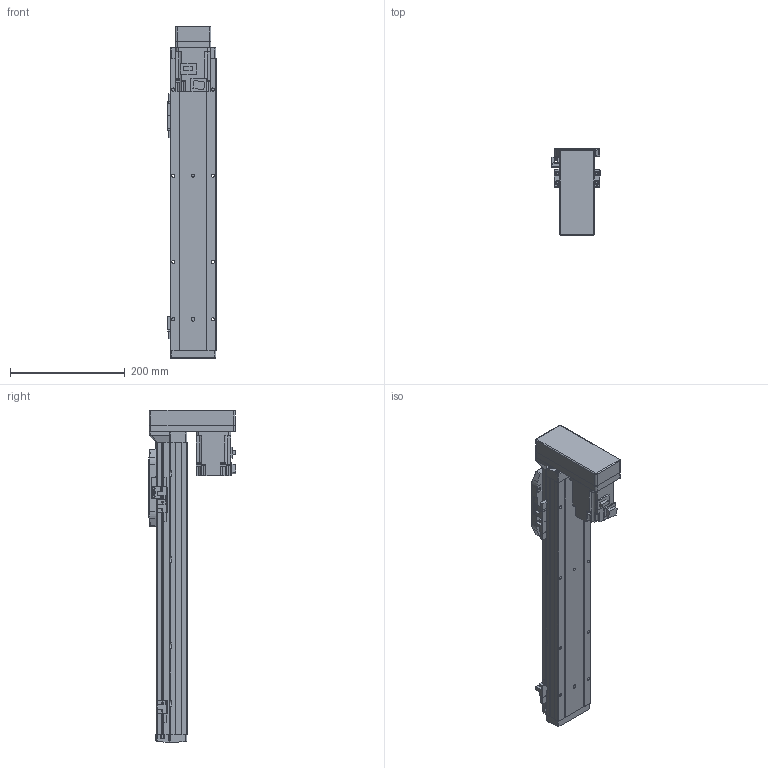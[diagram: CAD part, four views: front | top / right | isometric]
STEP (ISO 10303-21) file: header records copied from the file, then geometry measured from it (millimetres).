
FILE_DESCRIPTION (( 'STEP AP214' ), '1' );
FILE_NAME ('GSH8-350-BM-M20-1.step', '2025-01-07T06:08:08', ( '' ), ( '' ), 'SwSTEP 2.0', 'SolidWorks 2012', '' );
FILE_SCHEMA (( 'AUTOMOTIVE_DESIGN' ));
Length unit declared in the file: millimetre
Products named in the file (5): HG-KR23_200W_Motor; GSH8-BL-008; GSH8-BL-011-350-M20; GSH8-350-BM-M20-1; GSH8-GY-004
Assembly tree (4 placements, depth 2):
  GSH8-350-BM-M20-1
    GSH8-BL-011-350-M20
    GSH8-GY-004
    GSH8-BL-008
    HG-KR23_200W_Motor
Bounding box: 84 x 152.3 x 578.2 mm (x, y, z)
Volume: 1701275.3 mm3; surface area: 393464.8 mm2
Topology: 4 solids, 8 shells, 1103 faces, 2882 edges, 1852 vertices
Faces by surface type: plane 630, cylinder 377, torus 42, cone 26, bspline 24, sphere 4
Entity records: 43260 total; most frequent: CARTESIAN_POINT 9786, DIRECTION 5846, ORIENTED_EDGE 5748, EDGE_CURVE 2874, AXIS2_PLACEMENT_3D 1964, LINE 1918, VECTOR 1918, VERTEX_POINT 1848
